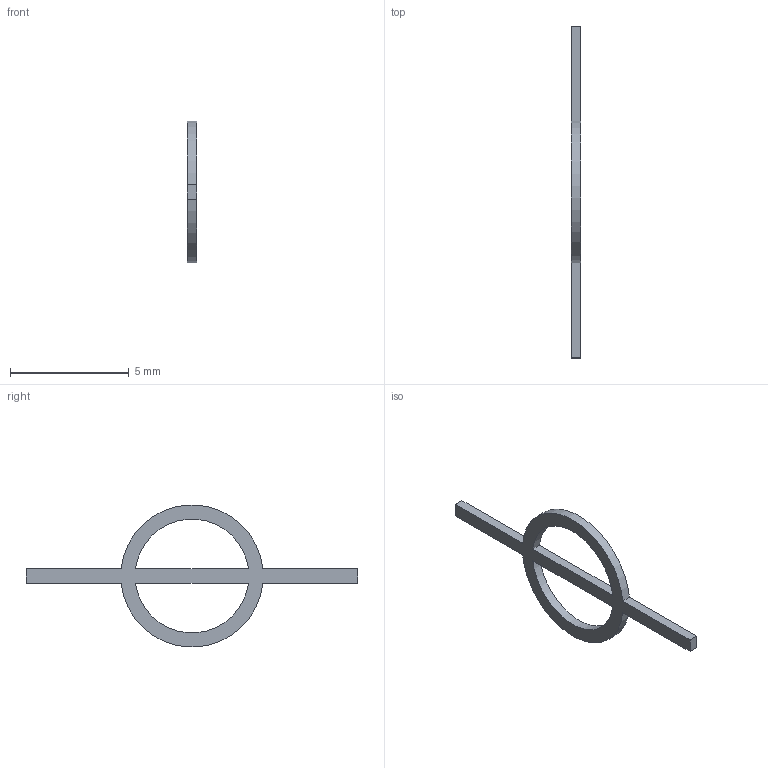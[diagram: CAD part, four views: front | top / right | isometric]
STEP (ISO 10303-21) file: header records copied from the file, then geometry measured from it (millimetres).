
FILE_DESCRIPTION(('Open CASCADE Model'),'2;1');
FILE_NAME('Open CASCADE Shape Model','2026-11-05T01:47:42',('Author'),( 'Open CASCADE'),'Open CASCADE STEP processor 7.8','Open CASCADE 7.8' ,'Unknown');
FILE_SCHEMA(('AUTOMOTIVE_DESIGN { 1 0 10303 214 1 1 1 1 }'));
Length unit declared in the file: millimetre
Products named in the file (1): Open CASCADE STEP translator 7.8 29
Bounding box: 0.4 x 14 x 5.98 mm (x, y, z)
Volume: 7.1 mm3; surface area: 59 mm2
Topology: 1 solids, 1 shells, 14 faces, 36 edges, 24 vertices
Faces by surface type: plane 10, cylinder 4
Entity records: 926 total; most frequent: CARTESIAN_POINT 171, DIRECTION 142, LINE 92, VECTOR 92, ORIENTED_EDGE 72, PCURVE 72, DEFINITIONAL_REPRESENTATION 72, EDGE_CURVE 36
